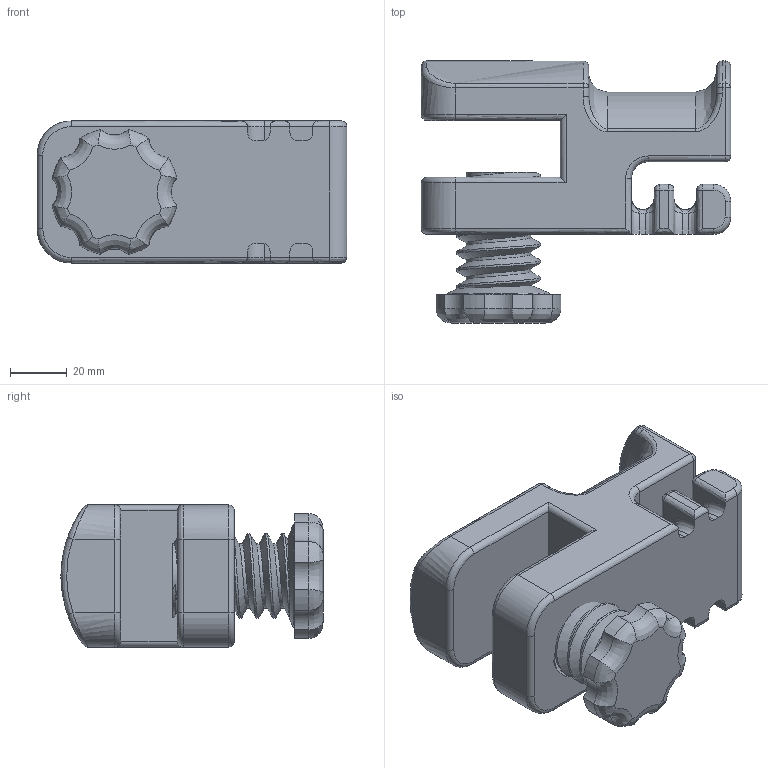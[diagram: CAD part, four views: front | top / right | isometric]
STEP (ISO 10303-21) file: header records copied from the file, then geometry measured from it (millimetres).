
FILE_DESCRIPTION( ('This file contains a STEP AP42 implementation' ,'as created by ZW3D STEP Interface translator.') ,'2;1' );
FILE_NAME( 'Desk Mount Headphone Holder.stp' ,'171226.201112', (''), ('ZWCAD Software Co.'), 'Version 1.0', 'ZW3D to STEP translator', '' );
FILE_SCHEMA( ('CONFIG_CONTROL_DESIGN') );
Length unit declared in the file: millimetre
Products named in the file (4): 0; headphone_screwOn; Gancho; Parafuso
Assembly tree (2 placements, depth 2):
  0
  headphone_screwOn
    Gancho
    Parafuso
Bounding box: 109 x 92.27 x 50 mm (x, y, z)
Volume: 241213.7 mm3; surface area: 44604.2 mm2
Topology: 2 solids, 2 shells, 210 faces, 504 edges, 291 vertices
Faces by surface type: bspline 210
Entity records: 17852 total; most frequent: CARTESIAN_POINT 14777, ORIENTED_EDGE 992, EDGE_CURVE 496, B_SPLINE_CURVE_WITH_KNOTS 323, VERTEX_POINT 291, EDGE_LOOP 213, FACE_OUTER_BOUND 210, ADVANCED_FACE 210
